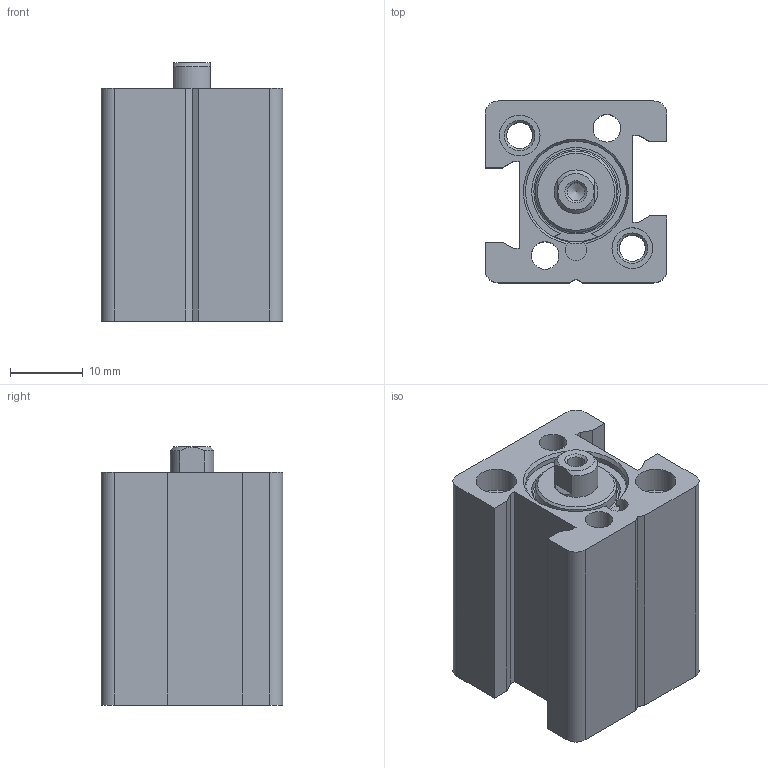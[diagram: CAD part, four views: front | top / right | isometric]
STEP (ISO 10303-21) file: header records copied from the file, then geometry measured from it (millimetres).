
FILE_DESCRIPTION(/* description */ ('Unknown'),/* implementation_level */ '2;1');
FILE_NAME(/* name */ 'FEN 12_5',/* time_stamp */ '2026-06-09T08:53:41+02:00',/* author */ ('Unknown'),/* organization */ ('Unknown'),/* preprocessor_version */ 'ST-DEVELOPER v18.102',/* originating_system */ 'Solid Edge',/* authorisation */ 'Unknown');
FILE_SCHEMA (('AUTOMOTIVE_DESIGN {1 0 10303 214 3 1 1}'));
Length unit declared in the file: millimetre
Products named in the file (4): FEN 12_5; Kolbenstange; Profilrohr; Kit
Assembly tree (3 placements, depth 2):
  FEN 12_5
    Kolbenstange
    Profilrohr
    Kit
Bounding box: 25 x 25 x 35.5 mm (x, y, z)
Volume: 14236.5 mm3; surface area: 9653.6 mm2
Topology: 4 solids, 4 shells, 116 faces, 278 edges, 180 vertices
Faces by surface type: plane 55, cylinder 35, cone 16, torus 8, bspline 2
Full cylindrical faces by diameter (mm): 1 x2, 2.459 x2, 3.6 x2, 3.8 x2, 4.134 x3, 5.6 x4, 6 x2, 8 x1, 9.35 x1, 11.2 x1, 12 x2, 13.7 x2
Entity records: 4241 total; most frequent: CARTESIAN_POINT 846, DIRECTION 531, ORIENTED_EDGE 448, EDGE_CURVE 224, AXIS2_PLACEMENT_3D 219, FACE_BOUND 182, EDGE_LOOP 181, VERTEX_POINT 166
